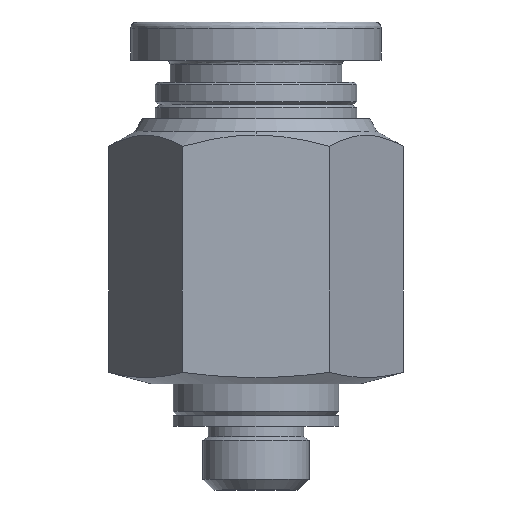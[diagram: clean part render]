
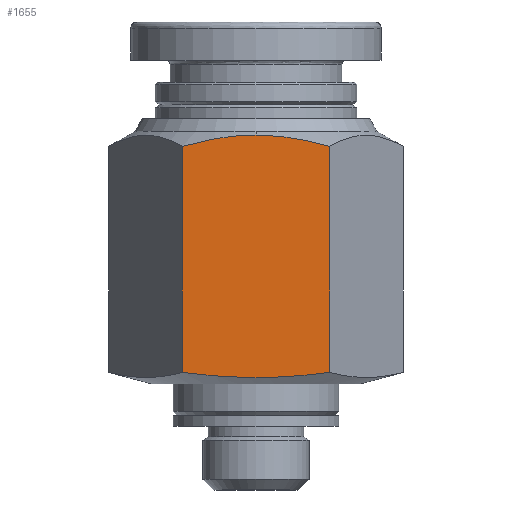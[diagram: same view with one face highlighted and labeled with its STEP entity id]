
A CAD part, front view. The second image highlights one B-rep face of the part: STEP entity #1655.
In plain terms, the highlighted planar face has unit normal (0, -1, 0).
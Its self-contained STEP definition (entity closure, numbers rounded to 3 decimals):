
#15 = CARTESIAN_POINT ( 'NONE',  ( 0., -6., 16.725 ) ) ;
#27 = CARTESIAN_POINT ( 'NONE',  ( 3.464, -6., 5.543 ) ) ;
#130 = DIRECTION ( 'NONE',  ( 0., 0., -1. ) ) ;
#147 = VECTOR ( 'NONE', #130, 1000. ) ;
#155 = CARTESIAN_POINT ( 'NONE',  ( -2.331, -6., 16.516 ) ) ;
#181 = EDGE_LOOP ( 'NONE', ( #1510, #996, #1840, #1469, #927 ) ) ;
#239 = CARTESIAN_POINT ( 'NONE',  ( 2.309, -6., 5.389 ) ) ;
#276 = CARTESIAN_POINT ( 'NONE',  ( 3.464, -6., 5.168 ) ) ;
#282 = CARTESIAN_POINT ( 'NONE',  ( 3.464, -6., 16.189 ) ) ;
#345 = VERTEX_POINT ( 'NONE', #1092 ) ;
#424 = DIRECTION ( 'NONE',  ( 1., 0., 0. ) ) ;
#477 = CARTESIAN_POINT ( 'NONE',  ( -1.18, -6., 16.725 ) ) ;
#532 = EDGE_CURVE ( 'NONE', #798, #345, #1332, .T. ) ;
#552 = EDGE_CURVE ( 'NONE', #345, #795, #1530, .T. ) ;
#576 = CARTESIAN_POINT ( 'NONE',  ( 0., -6., 16.725 ) ) ;
#579 = EDGE_CURVE ( 'NONE', #687, #1219, #1820, .T. ) ;
#663 = CARTESIAN_POINT ( 'NONE',  ( 0., -6., 5.201 ) ) ;
#687 = VERTEX_POINT ( 'NONE', #1907 ) ;
#715 = CARTESIAN_POINT ( 'NONE',  ( -3.464, -6., 5.156 ) ) ;
#739 = CARTESIAN_POINT ( 'NONE',  ( -3.464, -6., 5.543 ) ) ;
#752 = CARTESIAN_POINT ( 'NONE',  ( 0.294, -6., 16.725 ) ) ;
#780 = CARTESIAN_POINT ( 'NONE',  ( -3.464, -6., 16.189 ) ) ;
#795 = VERTEX_POINT ( 'NONE', #1043 ) ;
#798 = VERTEX_POINT ( 'NONE', #1969 ) ;
#840 = CARTESIAN_POINT ( 'NONE',  ( -2.309, -6., 5.389 ) ) ;
#858 = B_SPLINE_CURVE_WITH_KNOTS ( 'NONE', 3,
 ( #780, #155, #477, #15 ),
 .UNSPECIFIED., .F., .F.,
 ( 4, 4 ),
 ( 0., 0.004 ),
 .UNSPECIFIED. ) ;
#898 = CARTESIAN_POINT ( 'NONE',  ( -3.464, -6., 5.156 ) ) ;
#927 = ORIENTED_EDGE ( 'NONE', *, *, #532, .F. ) ;
#949 = CARTESIAN_POINT ( 'NONE',  ( -3.464, -6., 5.543 ) ) ;
#996 = ORIENTED_EDGE ( 'NONE', *, *, #579, .T. ) ;
#1004 = FACE_OUTER_BOUND ( 'NONE', #181, .T. ) ;
#1043 = CARTESIAN_POINT ( 'NONE',  ( 3.464, -6., 5.543 ) ) ;
#1057 = CARTESIAN_POINT ( 'NONE',  ( 2.899, -6., 16.352 ) ) ;
#1092 = CARTESIAN_POINT ( 'NONE',  ( 3.464, -6., 16.189 ) ) ;
#1170 = DIRECTION ( 'NONE',  ( 0., -1., 0. ) ) ;
#1207 = CARTESIAN_POINT ( 'NONE',  ( 1.464, -6., 16.627 ) ) ;
#1219 = VERTEX_POINT ( 'NONE', #739 ) ;
#1332 = B_SPLINE_CURVE_WITH_KNOTS ( 'NONE', 3,
 ( #576, #752, #1352, #1973, #1207, #1375, #1057, #282 ),
 .UNSPECIFIED., .F., .F.,
 ( 4, 2, 2, 4 ),
 ( 0.004, 0.004, 0.005, 0.007 ),
 .UNSPECIFIED. ) ;
#1352 = CARTESIAN_POINT ( 'NONE',  ( 0.589, -6., 16.712 ) ) ;
#1363 = DIRECTION ( 'NONE',  ( 0., 0., -1. ) ) ;
#1375 = CARTESIAN_POINT ( 'NONE',  ( 2.329, -6., 16.487 ) ) ;
#1469 = ORIENTED_EDGE ( 'NONE', *, *, #552, .F. ) ;
#1484 = EDGE_CURVE ( 'NONE', #1219, #795, #1654, .T. ) ;
#1510 = ORIENTED_EDGE ( 'NONE', *, *, #1749, .F. ) ;
#1530 = LINE ( 'NONE', #276, #147 ) ;
#1633 = PLANE ( 'NONE',  #1775 ) ;
#1654 = B_SPLINE_CURVE_WITH_KNOTS ( 'NONE', 3,
 ( #949, #840, #663, #239, #27 ),
 .UNSPECIFIED., .F., .F.,
 ( 4, 1, 4 ),
 ( 0., 0.003, 0.007 ),
 .UNSPECIFIED. ) ;
#1655 = ADVANCED_FACE ( '5', ( #1004 ), #1633, .T. ) ;
#1698 = VECTOR ( 'NONE', #1363, 1000. ) ;
#1749 = EDGE_CURVE ( 'NONE', #687, #798, #858, .T. ) ;
#1775 = AXIS2_PLACEMENT_3D ( 'NONE', #715, #1170, #424 ) ;
#1820 = LINE ( 'NONE', #898, #1698 ) ;
#1840 = ORIENTED_EDGE ( 'NONE', *, *, #1484, .T. ) ;
#1907 = CARTESIAN_POINT ( 'NONE',  ( -3.464, -6., 16.189 ) ) ;
#1969 = CARTESIAN_POINT ( 'NONE',  ( 0., -6., 16.725 ) ) ;
#1973 = CARTESIAN_POINT ( 'NONE',  ( 1.173, -6., 16.663 ) ) ;
